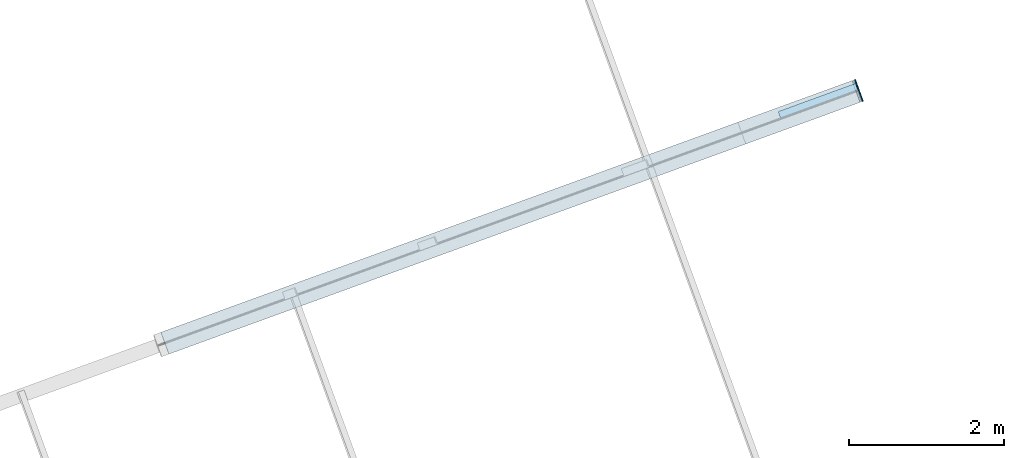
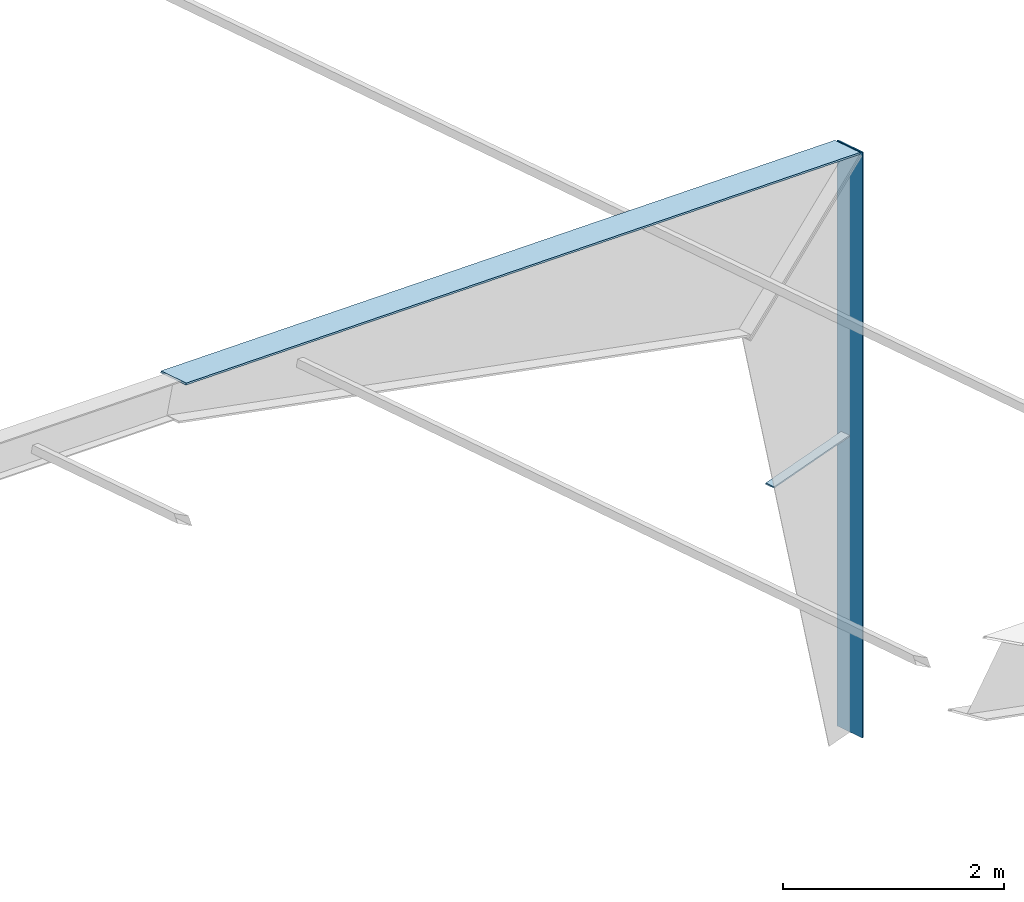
# One storey, part 15 of 17: 3 plates, 3 elements without a shape of their own.
"""IFC4 building model written with IfcOpenShell, lengths in millimetres."""

from ifc_helpers import new_model, si_unit, direction, frame, origin_with_axes, place, context, subcontext, project, spatial, polygons, material, element, aggregate, save


model = new_model("IFC4")

# Units and contexts
model_context = context("Model", 3, precision=0.2, world=frame((203566.813, 116264.779, 0.0), z_axis=(0.0, 0.0, 1.0), x_axis=(1.0, 0.0, 0.0)), true_north=direction((-0.9396138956, -0.3422363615)))
body_context = subcontext(model_context, "Body", "Model", "MODEL_VIEW")
ifc_project = project(units=[si_unit("LENGTHUNIT", "METRE", prefix="MILLI"), si_unit("AREAUNIT", "SQUARE_METRE"), si_unit("VOLUMEUNIT", "CUBIC_METRE"), si_unit("MASSUNIT", "GRAM", prefix="KILO"), si_unit("TIMEUNIT", "SECOND"), si_unit("PLANEANGLEUNIT", "RADIAN"), si_unit("SOLIDANGLEUNIT", "STERADIAN"), si_unit("THERMODYNAMICTEMPERATUREUNIT", "DEGREE_CELSIUS"), si_unit("LUMINOUSINTENSITYUNIT", "LUMEN")], contexts=[model_context])

# Site, building, storey
site_placement = place(None, origin_with_axes())
site = spatial("IfcSite", under=ifc_project, at=site_placement, Name="Nobelprojektet", CompositionType="ELEMENT")
building_placement = place(site_placement, origin_with_axes())
building = spatial("IfcBuilding", under=site, at=building_placement, Name="Hall B", CompositionType="ELEMENT")
storey_placement = place(building_placement, frame((0.0, 0.0, 136000.0), z_axis=(0.0, 0.0, 1.0), x_axis=(1.0, 0.0, 0.0)))
storey = spatial("IfcBuildingStorey", under=building, at=storey_placement, Name="Plan_2", CompositionType="ELEMENT", Elevation=136000.0)

# Assembly, plate
assembly_1_placement = place(storey_placement, frame((164797.58438, 178733.9872, -2800.01358), z_axis=(0.9396136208, 0.3422371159, 0.0), x_axis=(0.0, 0.0, 1.0)))
assembly_1 = element("IfcElementAssembly", 1, at=assembly_1_placement, inside=storey, Name="BEF. STOMME", PredefinedType="NOTDEFINED")
ifc_material = material(Name="S355J2", Category="STEEL")
plate_1_placement = place(assembly_1_placement, frame((6473.48022, 0.0, 0.0), z_axis=(-1.0, 0.0, 0.0), x_axis=(0.0, 0.0, 1.0)))
plate_1 = element("IfcPlate", 2, at=plate_1_placement, material=ifc_material, Name="BEF. STOMME", PredefinedType="NOTDEFINED", context=body_context, shape_type="Tessellation", body=[
    polygons([(-7.5, -150.0, 6473.48022), (-7.5, 150.0, 6473.48022), (-7.5, 150.0, 0.0), (-7.5, -150.0, 0.0), (7.5, 150.0, 6473.48022), (7.5, 150.0, 0.0), (7.5, -150.0, 6473.48022), (7.5, -150.0, 0.0)], [[[1, 2, 3, 4]], [[2, 5, 6, 3]], [[5, 7, 8, 6]], [[7, 1, 4, 8]], [[6, 8, 4, 3]], [[7, 5, 2, 1]]], closed=True),
])
aggregate(assembly_1, [plate_1])

assembly_2_placement = place(storey_placement, frame((164759.6836, 178720.18253, 3682.47528), z_axis=(0.2431885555, 0.0885769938, 0.9659262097), x_axis=(-0.9075966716, -0.3305755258, 0.2588206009)))
assembly_2 = element("IfcElementAssembly", 3, at=assembly_2_placement, inside=storey, Name="BEF. STOMME", PredefinedType="NOTDEFINED")
plate_2_placement = place(assembly_2_placement, frame((9833.15093, 0.0, 0.0), z_axis=(-1.0, 0.0, 0.0), x_axis=(0.0, 0.0, 1.0)))
plate_2 = element("IfcPlate", 4, at=plate_2_placement, material=ifc_material, Name="BEF. STOMME", PredefinedType="NOTDEFINED", context=body_context, shape_type="Tessellation", body=[
    polygons([(-10.0, -150.00001, 9833.15093), (-10.0, 149.99999, 9833.15093), (-10.0, 150.0, 0.0), (-10.0, -150.0, 0.0), (10.0, 149.99999, 9833.15093), (10.0, 150.0, 0.0), (10.0, -150.00001, 9833.15093), (10.0, -150.0, 0.0)], [[[1, 2, 3, 4]], [[2, 5, 6, 3]], [[5, 7, 8, 6]], [[7, 1, 4, 8]], [[6, 8, 4, 3]], [[7, 5, 2, 1]]], closed=True),
])
aggregate(assembly_2, [plate_2])

assembly_3_placement = place(storey_placement, frame((164773.426, 178778.40131, 472.4858), z_axis=(0.0, 0.0, 1.0), x_axis=(-0.9396136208, -0.3422371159, 0.0)))
assembly_3 = element("IfcElementAssembly", 5, at=assembly_3_placement, inside=storey, Name="BEF. STOMME", PredefinedType="NOTDEFINED")
plate_3_placement = place(assembly_3_placement, frame((1065.0, 0.0, 0.0), z_axis=(-1.0, 0.0, 0.0), x_axis=(0.0, 0.0, 1.0)))
plate_3 = element("IfcPlate", 6, at=plate_3_placement, material=ifc_material, Name="BEF. STOMME", PredefinedType="NOTDEFINED", context=body_context, shape_type="Tessellation", body=[
    polygons([(-7.5, -50.0, 1065.0), (-7.5, 50.0, 1065.0), (-7.5, 50.0, 0.0), (-7.5, -50.0, 0.0), (7.5, 50.0, 1065.0), (7.5, 50.0, 0.0), (7.5, -50.0, 1065.0), (7.5, -50.0, 0.0)], [[[1, 2, 3, 4]], [[2, 5, 6, 3]], [[5, 7, 8, 6]], [[7, 1, 4, 8]], [[6, 8, 4, 3]], [[7, 5, 2, 1]]], closed=True),
])
aggregate(assembly_3, [plate_3])

save(model, "model.ifc")
